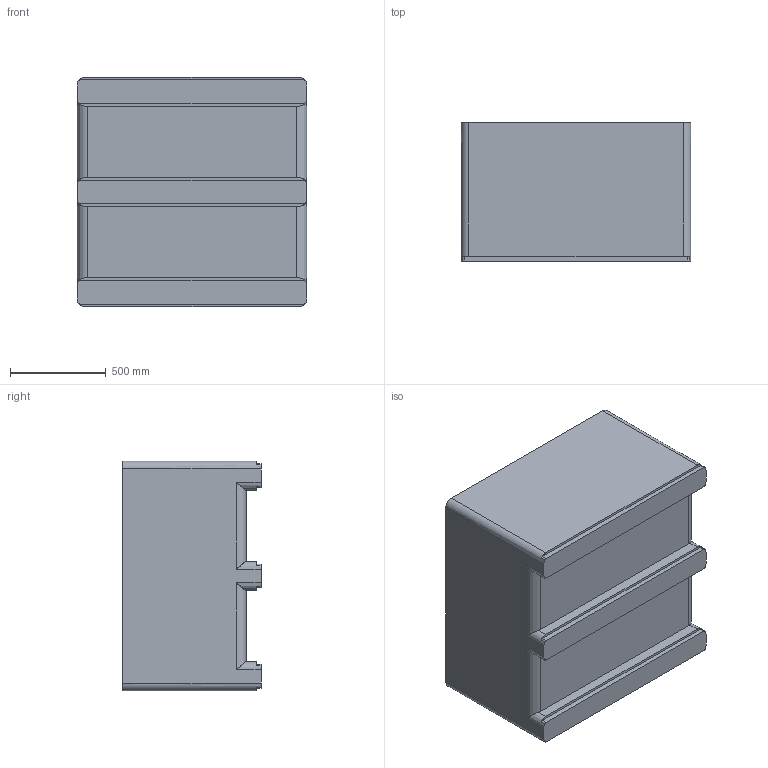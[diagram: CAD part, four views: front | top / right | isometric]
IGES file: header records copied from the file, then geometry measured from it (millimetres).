
Start section: SolidWorks IGES file using analytic representation for surfaces
Global section: file name: C:\Users\bconder\Documents\Production Models\MacroBins\24FV\24FV Block Model.IGS; native system: SolidWorks 2013; preprocessor: SolidWorks 2013; author: bconder; date: 130603.104119; units: inch
Bounding box: 1195 x 720.99 x 1195 mm (x, y, z)
Surface area: 8736848.9 mm2 (no closed solid volume)
Topology: 0 solids, 0 shells, 131 faces, 1636 edges, 1624 vertices
Faces by surface type: bspline 67, revolution 64
